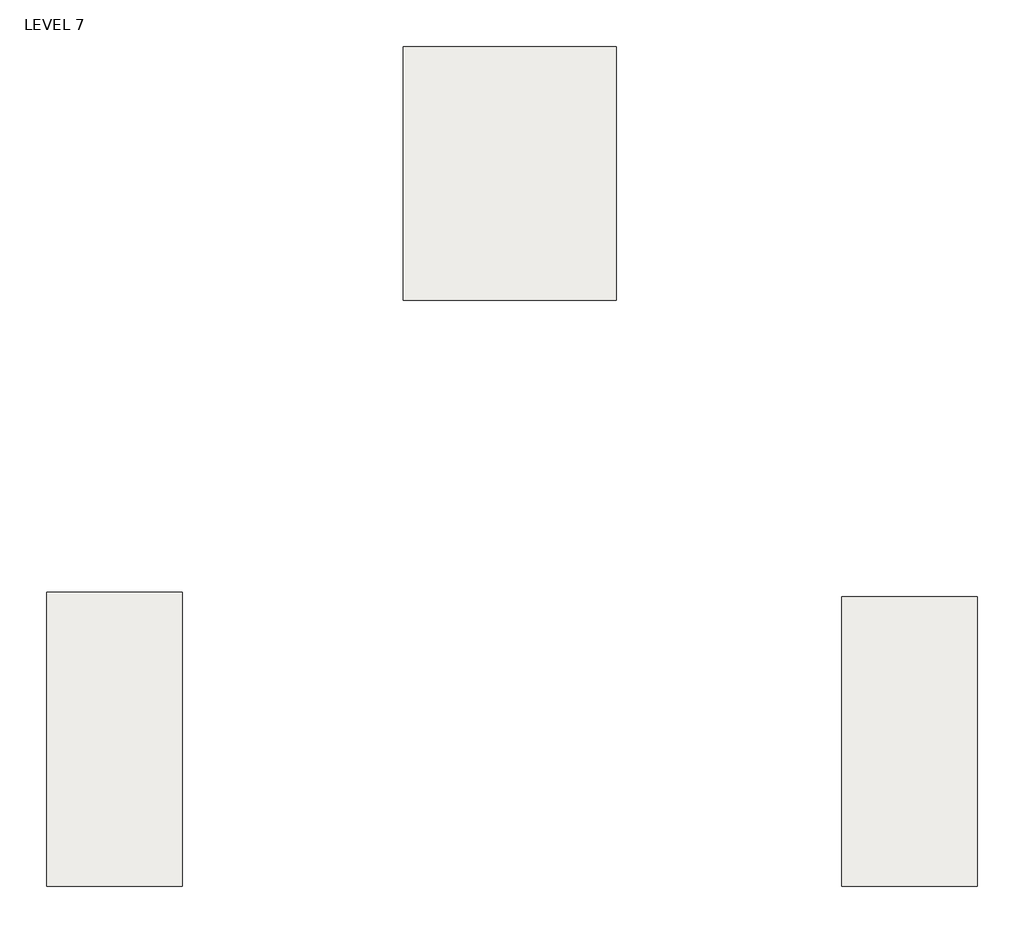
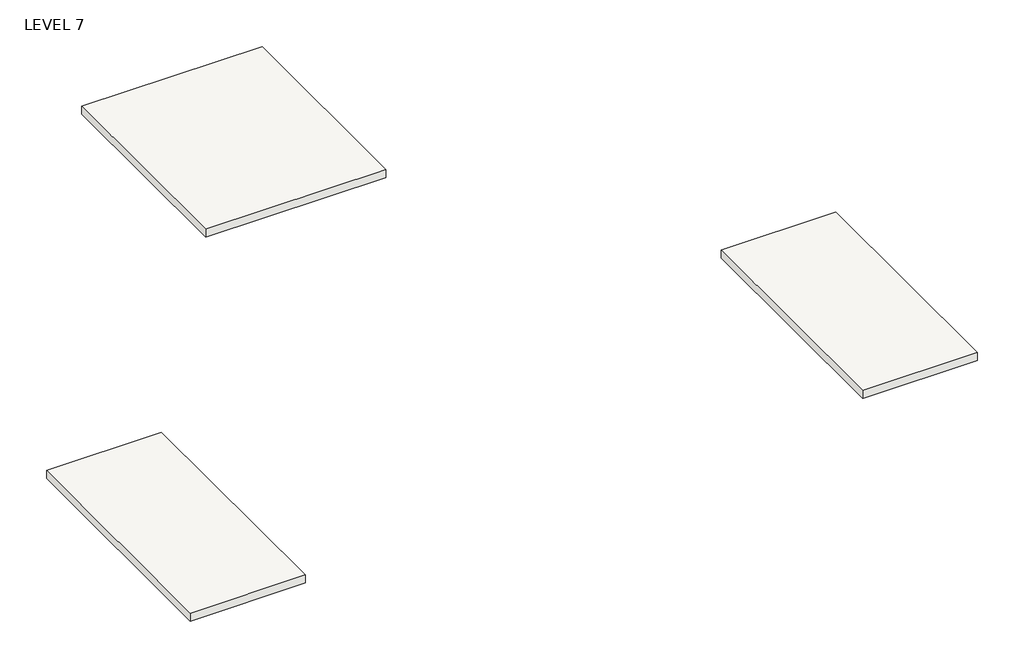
# One storey, incomplete: 3 roofs.
"""IFC4 building model written with IfcOpenShell, lengths in millimetres."""

from ifc_helpers import new_model, si_unit, frame, origin, place, context, project, spatial, polyline, outline, extrude, element, save

model = new_model("IFC4")

# Units and contexts
model_context = context("Model", 3, world=origin())
ifc_project = project(units=[si_unit("LENGTHUNIT", "METRE", prefix="MILLI")], contexts=[model_context])

# Site, building, storey
site = spatial("IfcSite", under=ifc_project)
building = spatial("IfcBuilding", under=site)
storey = spatial("IfcBuildingStorey", under=building, Name="LEVEL 7", Elevation=14630.4)

# Roofs
placement = place(None, origin())
element("IfcRoof", 1, ObjectType="Stair Tower", at=placement, inside=storey, context=model_context, shape_type="SweptSolid", body=[
    extrude(outline(polyline([(227.484118, 241.8333186), (227.484118, -6470.4992683), (-2871.315882, -6470.4992683), (-2871.315882, 241.8333186), (227.484118, 241.8333186)])), frame((0.0, 0.0, 14630.4), z_axis=(0.0, 0.0, 1.0), x_axis=(1.0, 0.0, 0.0)), (0.0, 0.0, 1.0), 228.6),
])
element("IfcRoof", 2, ObjectType="Stair Tower", at=placement, inside=storey, context=model_context, shape_type="SweptSolid", body=[
    extrude(outline(polyline([(18363.084118, 140.2333186), (18363.084118, -6470.4992683), (15264.284118, -6470.4992683), (15264.284118, 140.2333186), (18363.084118, 140.2333186)])), frame((0.0, 0.0, 14630.4), z_axis=(0.0, 0.0, 1.0), x_axis=(1.0, 0.0, 0.0)), (0.0, 0.0, 1.0), 228.6),
])
element("IfcRoof", 3, ObjectType="Stair Tower", at=placement, inside=storey, context=model_context, shape_type="SweptSolid", body=[
    extrude(outline(polyline([(10126.6821195, 6896.6333186), (5259.859118, 6896.6333186), (5259.859118, 12687.8333186), (10126.6821195, 12687.8333186), (10126.6821195, 6896.6333186)])), frame((0.0, 0.0, 14630.4), z_axis=(0.0, 0.0, 1.0), x_axis=(1.0, 0.0, 0.0)), (0.0, 0.0, 1.0), 228.6),
])

save(model, "model.ifc")
